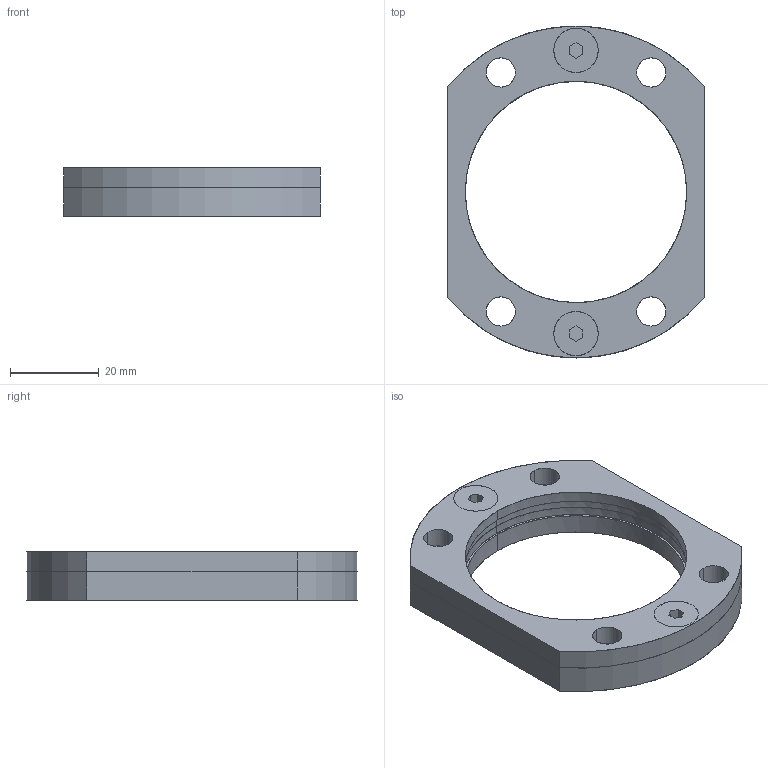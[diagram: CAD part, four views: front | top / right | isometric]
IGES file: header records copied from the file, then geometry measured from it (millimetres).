
Global section: file name: E:\UnigraphicsGraphicData\MISUMI_PRESS-PARTS\IGES\3d_fm-50_03758_r00.igs; native system: NX V5.0; preprocessor: UGS NX IGES V5.0; author: MISUMI; date: 20110105.160644; units: millimetre
Bounding box: 58 x 75 x 11 mm (x, y, z)
Surface area: 13048.4 mm2 (no closed solid volume)
Topology: 0 solids, 0 shells, 80 faces, 688 edges, 688 vertices
Faces by surface type: bspline 80
